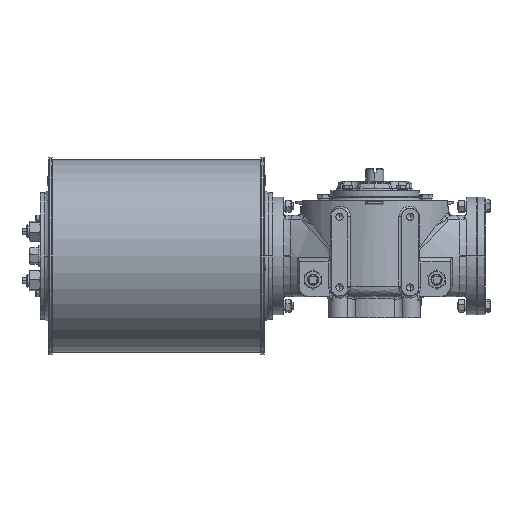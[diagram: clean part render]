
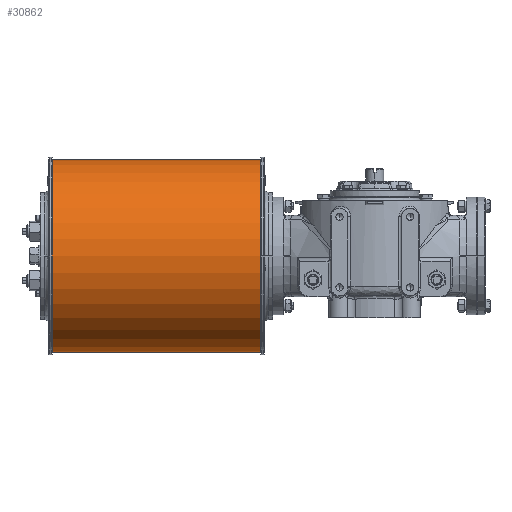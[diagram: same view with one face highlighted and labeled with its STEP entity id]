
A CAD part, front view. The second image highlights one B-rep face of the part: STEP entity #30862.
In plain terms, the highlighted cylindrical face has radius 136.5 mm (diameter 273 mm), a partial arc.
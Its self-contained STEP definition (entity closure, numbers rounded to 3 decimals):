
#4177 = CYLINDRICAL_SURFACE ( 'NONE', #29865, 136.5 ) ;
#4801 = DIRECTION ( 'NONE',  ( 0., 0., 1. ) ) ;
#9074 = ORIENTED_EDGE ( 'NONE', *, *, #37458, .T. ) ;
#9452 = ORIENTED_EDGE ( 'NONE', *, *, #61886, .T. ) ;
#9901 = DIRECTION ( 'NONE',  ( 0., 0., 1. ) ) ;
#12715 = CARTESIAN_POINT ( 'NONE',  ( -161.5, 22.5, 194. ) ) ;
#13305 = AXIS2_PLACEMENT_3D ( 'NONE', #17752, #17005, #41055 ) ;
#15263 = CARTESIAN_POINT ( 'NONE',  ( -456.5, 22.5, 57.5 ) ) ;
#17005 = DIRECTION ( 'NONE',  ( 1., 0., 0. ) ) ;
#17752 = CARTESIAN_POINT ( 'NONE',  ( -456.5, 22.5, 57.5 ) ) ;
#21985 = CARTESIAN_POINT ( 'NONE',  ( -161.5, 22.5, 57.5 ) ) ;
#22063 = CARTESIAN_POINT ( 'NONE',  ( -456.5, 22.5, -79. ) ) ;
#23303 = CARTESIAN_POINT ( 'NONE',  ( -456.5, 22.5, -79. ) ) ;
#24852 = ORIENTED_EDGE ( 'NONE', *, *, #49230, .F. ) ;
#27226 = EDGE_LOOP ( 'NONE', ( #67708, #9074, #9452, #24852 ) ) ;
#27931 = CIRCLE ( 'NONE', #13305, 136.5 ) ;
#29865 = AXIS2_PLACEMENT_3D ( 'NONE', #15263, #38561, #9901 ) ;
#30465 = LINE ( 'NONE', #54902, #39034 ) ;
#30862 = ADVANCED_FACE ( 'NONE', ( #72973 ), #4177, .T. ) ;
#33892 = VERTEX_POINT ( 'NONE', #12715 ) ;
#33908 = DIRECTION ( 'NONE',  ( 1., 0., 0. ) ) ;
#37412 = CIRCLE ( 'NONE', #72828, 136.5 ) ;
#37458 = EDGE_CURVE ( 'NONE', #61245, #39821, #69828, .T. ) ;
#38561 = DIRECTION ( 'NONE',  ( 1., 0., 0. ) ) ;
#39034 = VECTOR ( 'NONE', #66362, 1000. ) ;
#39821 = VERTEX_POINT ( 'NONE', #60826 ) ;
#41055 = DIRECTION ( 'NONE',  ( 0., 0., 1. ) ) ;
#43596 = CARTESIAN_POINT ( 'NONE',  ( -456.5, 22.5, 194. ) ) ;
#49145 = VECTOR ( 'NONE', #33908, 1000. ) ;
#49230 = EDGE_CURVE ( 'NONE', #74369, #33892, #30465, .T. ) ;
#54902 = CARTESIAN_POINT ( 'NONE',  ( -456.5, 22.5, 194. ) ) ;
#60826 = CARTESIAN_POINT ( 'NONE',  ( -161.5, 22.5, -79. ) ) ;
#61245 = VERTEX_POINT ( 'NONE', #23303 ) ;
#61886 = EDGE_CURVE ( 'NONE', #39821, #33892, #37412, .T. ) ;
#66362 = DIRECTION ( 'NONE',  ( 1., 0., 0. ) ) ;
#66599 = EDGE_CURVE ( 'NONE', #74369, #61245, #27931, .T. ) ;
#67708 = ORIENTED_EDGE ( 'NONE', *, *, #66599, .T. ) ;
#67856 = DIRECTION ( 'NONE',  ( -1., 0., 0. ) ) ;
#69828 = LINE ( 'NONE', #22063, #49145 ) ;
#72828 = AXIS2_PLACEMENT_3D ( 'NONE', #21985, #67856, #4801 ) ;
#72973 = FACE_OUTER_BOUND ( 'NONE', #27226, .T. ) ;
#74369 = VERTEX_POINT ( 'NONE', #43596 ) ;
